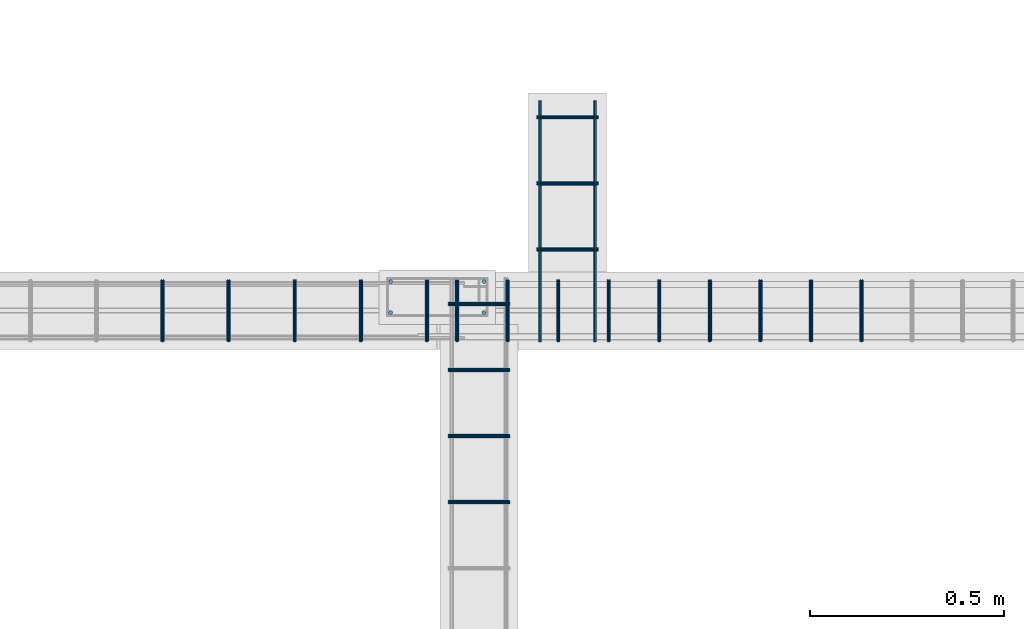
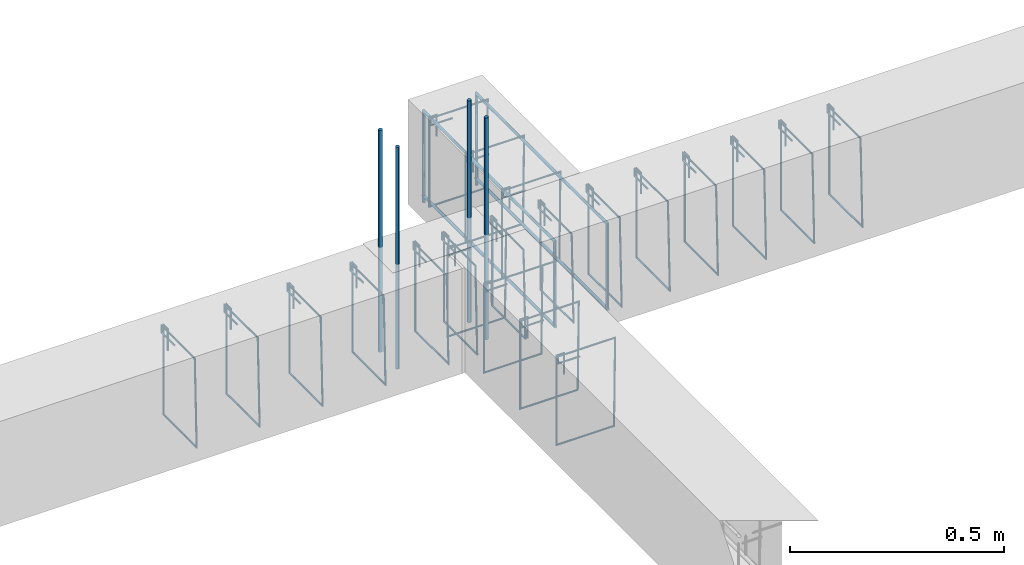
# One storey, part 114 of 150: 29 reinforcing bars.
"""IFC4 building model written with IfcOpenShell, lengths in centimetres."""

from ifc_helpers import new_model, entity, si_unit, derived_unit, frame, origin_with_axes, place, context, project, spatial, source, transform, mapped, element, save


model = new_model("IFC4")

# Units and contexts
model_context = context("Model", 3, precision=1e-05, world=origin_with_axes(), identifier="Body")
ifc_project = project(units=[si_unit("LENGTHUNIT", "METRE", prefix="CENTI"), si_unit("VOLUMEUNIT", "CUBIC_METRE"), si_unit("AREAUNIT", "SQUARE_METRE"), si_unit("POWERUNIT", "WATT"), si_unit("LUMINOUSFLUXUNIT", "LUMEN"), si_unit("ELECTRICCURRENTUNIT", "AMPERE"), si_unit("PRESSUREUNIT", "PASCAL", prefix="KILO"), si_unit("MASSUNIT", "GRAM", prefix="KILO"), si_unit("PLANEANGLEUNIT", "RADIAN"), derived_unit("VOLUMETRICFLOWRATEUNIT", [(si_unit("LENGTHUNIT", "METRE"), 3), (si_unit("TIMEUNIT", "SECOND"), -1)])], contexts=[model_context])

# Site, building, storey
site_placement = place(None, frame((-4000.0, 0.0, 0.0), z_axis=(0.0, 0.0, 1.0), x_axis=(1.0, 0.0, 0.0)))
site = spatial("IfcSite", under=ifc_project, at=site_placement, Name="PADRÃO")
building_placement = place(site_placement, frame((0.0, 0.0, -14.0)))
building = spatial("IfcBuilding", under=site, at=building_placement, Name="CRECHE PRÉ-ESCOLA TIPO 2")
placement = place(building_placement, origin_with_axes())
storey_placement = place(placement, frame((0.0, 0.0, 30.0), z_axis=(0.0, 0.0, 1.0), x_axis=(1.0, 0.0, 0.0)))
storey = spatial("IfcBuildingStorey", under=building, at=storey_placement, Name="VIGA BALDRAME", CompositionType="ELEMENT", Elevation=16.0)

# Reinforcing bars
shared_shape_1 = source(origin_with_axes(), model_context, "Body", "AdvancedSweptSolid", [
    entity("IfcSweptDiskSolid", entity("IfcCompositeCurve", [entity("IfcCompositeCurveSegment", "CONTINUOUS", True, entity("IfcPolyline", [entity("IfcCartesianPoint", [2.0, -6.0, 0.0]), entity("IfcCartesianPoint", [2.0, 0.0, 0.0])])), entity("IfcCompositeCurveSegment", "CONTINUOUS", True, entity("IfcPolyline", [entity("IfcCartesianPoint", [2.0, 0.0, 0.0]), entity("IfcCartesianPoint", [0.0, 0.0, 0.0])])), entity("IfcCompositeCurveSegment", "CONTINUOUS", True, entity("IfcPolyline", [entity("IfcCartesianPoint", [0.0, 0.0, 0.0]), entity("IfcCartesianPoint", [0.0, -25.5, 0.0])])), entity("IfcCompositeCurveSegment", "CONTINUOUS", True, entity("IfcPolyline", [entity("IfcCartesianPoint", [0.0, -25.5, 0.0]), entity("IfcCartesianPoint", [15.5, -25.5, 0.0])])), entity("IfcCompositeCurveSegment", "CONTINUOUS", True, entity("IfcPolyline", [entity("IfcCartesianPoint", [15.5, -25.5, 0.0]), entity("IfcCartesianPoint", [15.5, 0.0, 0.5])])), entity("IfcCompositeCurveSegment", "CONTINUOUS", True, entity("IfcPolyline", [entity("IfcCartesianPoint", [15.5, 0.0, 0.5]), entity("IfcCartesianPoint", [0.0, 0.0, 0.5])])), entity("IfcCompositeCurveSegment", "CONTINUOUS", True, entity("IfcPolyline", [entity("IfcCartesianPoint", [0.0, 0.0, 0.5]), entity("IfcCartesianPoint", [0.0, -2.0, 0.5])])), entity("IfcCompositeCurveSegment", "CONTINUOUS", True, entity("IfcPolyline", [entity("IfcCartesianPoint", [0.0, -2.0, 0.5]), entity("IfcCartesianPoint", [6.0, -2.0, 0.5])]))], False), 0.25),
])
for number, where, z_axis, x_axis, name in (
    (1, (710.75, 3519.0, -2.25), (0.0, -1.0, 0.0), (1.0, 0.0, 0.0), "V177 - Estribo"),
    (2, (710.75, 3502.0, -2.25), (0.0, -1.0, 0.0), (1.0, 0.0, 0.0), "V177 - Estribo"),
    (3, (710.75, 3485.0, -2.25), (0.0, -1.0, 0.0), (1.0, 0.0, 0.0), "V177 - Estribo"),
):
    element("IfcReinforcingBar", number, at=place(storey_placement, frame(where, z_axis=z_axis, x_axis=x_axis)), inside=storey, Name=name, BarLength=0.0, CrossSectionArea=1.9634954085e-05, NominalDiameter=0.5, PredefinedType="MAIN", context=model_context, shape_type="MappedRepresentation", body=[
        mapped(shared_shape_1, transform((0.0, 0.0, 0.0), scale=1.0)),
    ])
shared_shape_2 = source(origin_with_axes(), model_context, "Body", "AdvancedSweptSolid", [
    entity("IfcSweptDiskSolid", entity("IfcCompositeCurve", [entity("IfcCompositeCurveSegment", "CONTINUOUS", True, entity("IfcPolyline", [entity("IfcCartesianPoint", [2.0, -6.0, 0.0]), entity("IfcCartesianPoint", [2.0, 0.0, 0.0])])), entity("IfcCompositeCurveSegment", "CONTINUOUS", True, entity("IfcPolyline", [entity("IfcCartesianPoint", [2.0, 0.0, 0.0]), entity("IfcCartesianPoint", [0.0, 0.0, 0.0])])), entity("IfcCompositeCurveSegment", "CONTINUOUS", True, entity("IfcPolyline", [entity("IfcCartesianPoint", [0.0, 0.0, 0.0]), entity("IfcCartesianPoint", [0.0, -25.5, 0.0])])), entity("IfcCompositeCurveSegment", "CONTINUOUS", True, entity("IfcPolyline", [entity("IfcCartesianPoint", [0.0, -25.5, 0.0]), entity("IfcCartesianPoint", [15.5, -25.5, 0.0])])), entity("IfcCompositeCurveSegment", "CONTINUOUS", True, entity("IfcPolyline", [entity("IfcCartesianPoint", [15.5, -25.5, 0.0]), entity("IfcCartesianPoint", [15.5, 0.0, 0.5])])), entity("IfcCompositeCurveSegment", "CONTINUOUS", True, entity("IfcPolyline", [entity("IfcCartesianPoint", [15.5, 0.0, 0.5]), entity("IfcCartesianPoint", [0.0, 0.0, 0.5])])), entity("IfcCompositeCurveSegment", "CONTINUOUS", True, entity("IfcPolyline", [entity("IfcCartesianPoint", [0.0, 0.0, 0.5]), entity("IfcCartesianPoint", [0.0, -2.0, 0.5])])), entity("IfcCompositeCurveSegment", "CONTINUOUS", True, entity("IfcPolyline", [entity("IfcCartesianPoint", [0.0, -2.0, 0.5]), entity("IfcCartesianPoint", [6.0, -2.0, 0.5])]))], False), 0.25),
])
for number, where, z_axis, x_axis, name in (
    (4, (687.98, 3470.99, -2.25), (0.0, -1.0, 0.0), (1.0, 0.0, 0.0), "V176 - Estribo"),
    (5, (687.98, 3453.99, -2.25), (0.0, -1.0, 0.0), (1.0, 0.0, 0.0), "V176 - Estribo"),
    (6, (687.98, 3436.99, -2.25), (0.0, -1.0, 0.0), (1.0, 0.0, 0.0), "V176 - Estribo"),
    (7, (687.98, 3419.99, -2.25), (0.0, -1.0, 0.0), (1.0, 0.0, 0.0), "V176 - Estribo"),
):
    element("IfcReinforcingBar", number, at=place(storey_placement, frame(where, z_axis=z_axis, x_axis=x_axis)), inside=storey, Name=name, BarLength=0.0, CrossSectionArea=1.9634954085e-05, NominalDiameter=0.5, PredefinedType="MAIN", context=model_context, shape_type="MappedRepresentation", body=[
        mapped(shared_shape_2, transform((0.0, 0.0, 0.0), scale=1.0)),
    ])
shared_shape_3 = source(origin_with_axes(), model_context, "Body", "AdvancedSweptSolid", [
    entity("IfcSweptDiskSolid", entity("IfcCompositeCurve", [entity("IfcCompositeCurveSegment", "CONTINUOUS", True, entity("IfcPolyline", [entity("IfcCartesianPoint", [2.0, -6.0, 0.0]), entity("IfcCartesianPoint", [2.0, 0.0, 0.0])])), entity("IfcCompositeCurveSegment", "CONTINUOUS", True, entity("IfcPolyline", [entity("IfcCartesianPoint", [2.0, 0.0, 0.0]), entity("IfcCartesianPoint", [0.0, 0.0, 0.0])])), entity("IfcCompositeCurveSegment", "CONTINUOUS", True, entity("IfcPolyline", [entity("IfcCartesianPoint", [0.0, 0.0, 0.0]), entity("IfcCartesianPoint", [0.0, -25.5, 0.0])])), entity("IfcCompositeCurveSegment", "CONTINUOUS", True, entity("IfcPolyline", [entity("IfcCartesianPoint", [0.0, -25.5, 0.0]), entity("IfcCartesianPoint", [15.5, -25.5, 0.0])])), entity("IfcCompositeCurveSegment", "CONTINUOUS", True, entity("IfcPolyline", [entity("IfcCartesianPoint", [15.5, -25.5, 0.0]), entity("IfcCartesianPoint", [15.5, 0.0, 0.5])])), entity("IfcCompositeCurveSegment", "CONTINUOUS", True, entity("IfcPolyline", [entity("IfcCartesianPoint", [15.5, 0.0, 0.5]), entity("IfcCartesianPoint", [0.0, 0.0, 0.5])])), entity("IfcCompositeCurveSegment", "CONTINUOUS", True, entity("IfcPolyline", [entity("IfcCartesianPoint", [0.0, 0.0, 0.5]), entity("IfcCartesianPoint", [0.0, -2.0, 0.5])])), entity("IfcCompositeCurveSegment", "CONTINUOUS", True, entity("IfcPolyline", [entity("IfcCartesianPoint", [0.0, -2.0, 0.5]), entity("IfcCartesianPoint", [6.0, -2.0, 0.5])]))], False), 0.25),
])
for number, where, z_axis, x_axis, name in (
    (8, (682.595, 3476.75, -2.25), (-1.0, 0.0, 0.0), (0.0, -1.0, 0.0), "V110 - Estribo"),
    (9, (648.595, 3476.75, -2.25), (-1.0, 0.0, 0.0), (0.0, -1.0, 0.0), "V110 - Estribo"),
    (10, (631.595, 3476.75, -2.25), (-1.0, 0.0, 0.0), (0.0, -1.0, 0.0), "V110 - Estribo"),
    (11, (614.595, 3476.75, -2.25), (-1.0, 0.0, 0.0), (0.0, -1.0, 0.0), "V110 - Estribo"),
    (12, (665.595, 3476.75, -2.25), (-1.0, 0.0, 0.0), (0.0, -1.0, 0.0), "V110 - Estribo"),
):
    element("IfcReinforcingBar", number, at=place(storey_placement, frame(where, z_axis=z_axis, x_axis=x_axis)), inside=storey, Name=name, BarLength=0.0, CrossSectionArea=1.9634954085e-05, NominalDiameter=0.5, PredefinedType="MAIN", context=model_context, shape_type="MappedRepresentation", body=[
        mapped(shared_shape_3, transform((0.0, 0.0, 0.0), scale=1.0)),
    ])
shared_shape_4 = source(origin_with_axes(), model_context, "Body", "AdvancedSweptSolid", [
    entity("IfcSweptDiskSolid", entity("IfcCompositeCurve", [entity("IfcCompositeCurveSegment", "CONTINUOUS", True, entity("IfcPolyline", [entity("IfcCartesianPoint", [2.0, -6.0, 0.0]), entity("IfcCartesianPoint", [2.0, 0.0, 0.0])])), entity("IfcCompositeCurveSegment", "CONTINUOUS", True, entity("IfcPolyline", [entity("IfcCartesianPoint", [2.0, 0.0, 0.0]), entity("IfcCartesianPoint", [0.0, 0.0, 0.0])])), entity("IfcCompositeCurveSegment", "CONTINUOUS", True, entity("IfcPolyline", [entity("IfcCartesianPoint", [0.0, 0.0, 0.0]), entity("IfcCartesianPoint", [0.0, -25.5, 0.0])])), entity("IfcCompositeCurveSegment", "CONTINUOUS", True, entity("IfcPolyline", [entity("IfcCartesianPoint", [0.0, -25.5, 0.0]), entity("IfcCartesianPoint", [15.5, -25.5, 0.0])])), entity("IfcCompositeCurveSegment", "CONTINUOUS", True, entity("IfcPolyline", [entity("IfcCartesianPoint", [15.5, -25.5, 0.0]), entity("IfcCartesianPoint", [15.5, 0.0, 0.5])])), entity("IfcCompositeCurveSegment", "CONTINUOUS", True, entity("IfcPolyline", [entity("IfcCartesianPoint", [15.5, 0.0, 0.5]), entity("IfcCartesianPoint", [0.0, 0.0, 0.5])])), entity("IfcCompositeCurveSegment", "CONTINUOUS", True, entity("IfcPolyline", [entity("IfcCartesianPoint", [0.0, 0.0, 0.5]), entity("IfcCartesianPoint", [0.0, -2.0, 0.5])])), entity("IfcCompositeCurveSegment", "CONTINUOUS", True, entity("IfcPolyline", [entity("IfcCartesianPoint", [0.0, -2.0, 0.5]), entity("IfcCartesianPoint", [6.0, -2.0, 0.5])]))], False), 0.25),
])
for number, where, z_axis, x_axis, name in (
    (13, (794.36, 3476.75, -2.25), (-1.0, 0.0, 0.0), (0.0, -1.0, 0.0), "V110 - Estribo"),
    (14, (781.36, 3476.75, -2.25), (-1.0, 0.0, 0.0), (0.0, -1.0, 0.0), "V110 - Estribo"),
    (15, (768.36, 3476.75, -2.25), (-1.0, 0.0, 0.0), (0.0, -1.0, 0.0), "V110 - Estribo"),
    (16, (755.36, 3476.75, -2.25), (-1.0, 0.0, 0.0), (0.0, -1.0, 0.0), "V110 - Estribo"),
    (17, (742.36, 3476.75, -2.25), (-1.0, 0.0, 0.0), (0.0, -1.0, 0.0), "V110 - Estribo"),
    (18, (729.36, 3476.75, -2.25), (-1.0, 0.0, 0.0), (0.0, -1.0, 0.0), "V110 - Estribo"),
    (19, (716.36, 3476.75, -2.25), (-1.0, 0.0, 0.0), (0.0, -1.0, 0.0), "V110 - Estribo"),
    (20, (703.36, 3476.75, -2.25), (-1.0, 0.0, 0.0), (0.0, -1.0, 0.0), "V110 - Estribo"),
    (21, (690.36, 3476.75, -2.25), (-1.0, 0.0, 0.0), (0.0, -1.0, 0.0), "V110 - Estribo"),
):
    element("IfcReinforcingBar", number, at=place(storey_placement, frame(where, z_axis=z_axis, x_axis=x_axis)), inside=storey, Name=name, BarLength=0.0, CrossSectionArea=1.9634954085e-05, NominalDiameter=0.5, PredefinedType="MAIN", context=model_context, shape_type="MappedRepresentation", body=[
        mapped(shared_shape_4, transform((0.0, 0.0, 0.0), scale=1.0)),
    ])
for number, where, z_axis, x_axis, name in (
    (22, (697.0, 3476.49, 33.3573001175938), (0.0, 0.0, 1.0), (1.0, 0.0, 0.0), "P39 - Longitudinal"),
    (23, (697.0, 3468.49, 33.3573001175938), (0.0, 0.0, 1.0), (1.0, 0.0, 0.0), "P39 - Longitudinal"),
    (24, (673.0, 3468.49, 33.3573001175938), (0.0, 0.0, 1.0), (1.0, 0.0, 0.0), "P39 - Longitudinal"),
    (25, (673.0, 3476.49, 33.3573001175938), (0.0, 0.0, 1.0), (1.0, 0.0, 0.0), "P39 - Longitudinal"),
):
    element("IfcReinforcingBar", number, at=place(storey_placement, frame(where, z_axis=z_axis, x_axis=x_axis)), inside=storey, Name=name, BarLength=0.0, CrossSectionArea=7.853981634e-05, NominalDiameter=1.0, PredefinedType="MAIN", context=model_context, shape_type="AdvancedSweptSolid", body=[
        entity("IfcSweptDiskSolid", entity("IfcCompositeCurve", [entity("IfcCompositeCurveSegment", "CONTINUOUS", True, entity("IfcPolyline", [entity("IfcCartesianPoint", [0.0, 0.0, -63.3573001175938]), entity("IfcCartesianPoint", [0.0, 0.0, 0.0])]))], False), 0.5),
    ])
for number, where, z_axis, x_axis, name in (
    (26, (711.4, 3492.0, -26.7), (0.0, 0.0, 1.0), (1.0, 0.0, 0.0), "V177 - Longitudinal inferior"),
    (27, (725.6, 3492.0, -26.7), (0.0, 0.0, 1.0), (1.0, 0.0, 0.0), "V177 - Longitudinal inferior"),
):
    element("IfcReinforcingBar", number, at=place(storey_placement, frame(where, z_axis=z_axis, x_axis=x_axis)), inside=storey, Name=name, BarLength=0.0, CrossSectionArea=5.0265482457e-05, NominalDiameter=0.8, PredefinedType="MAIN", context=model_context, shape_type="AdvancedSweptSolid", body=[
        entity("IfcSweptDiskSolid", entity("IfcCompositeCurve", [entity("IfcCompositeCurveSegment", "CONTINUOUS", True, entity("IfcPolyline", [entity("IfcCartesianPoint", [0.0, -31.0, -0.4]), entity("IfcCartesianPoint", [0.0, 31.0, -0.4])]))], False), 0.4),
    ])
for number, where, z_axis, x_axis, name in (
    (28, (711.4, 3492.0, -2.49624973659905), (0.0, 0.0, 1.0), (1.0, 0.0, 0.0), "V177 - Longitudinal superior"),
    (29, (725.6, 3492.0, -2.49624973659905), (0.0, 0.0, 1.0), (1.0, 0.0, 0.0), "V177 - Longitudinal superior"),
):
    element("IfcReinforcingBar", number, at=place(storey_placement, frame(where, z_axis=z_axis, x_axis=x_axis)), inside=storey, Name=name, BarLength=0.0, CrossSectionArea=5.0265482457e-05, NominalDiameter=0.8, PredefinedType="MAIN", context=model_context, shape_type="AdvancedSweptSolid", body=[
        entity("IfcSweptDiskSolid", entity("IfcCompositeCurve", [entity("IfcCompositeCurveSegment", "CONTINUOUS", True, entity("IfcPolyline", [entity("IfcCartesianPoint", [0.0, -30.6, -24.2941566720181]), entity("IfcCartesianPoint", [0.0, -30.6, -0.403750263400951])])), entity("IfcCompositeCurveSegment", "CONTINUOUS", True, entity("IfcPolyline", [entity("IfcCartesianPoint", [0.0, -30.6, -0.403750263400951]), entity("IfcCartesianPoint", [0.0, 30.6, -0.403750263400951])])), entity("IfcCompositeCurveSegment", "CONTINUOUS", True, entity("IfcPolyline", [entity("IfcCartesianPoint", [0.0, 30.6, -0.403750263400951]), entity("IfcCartesianPoint", [0.0, 30.6, -26.403750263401])]))], False), 0.4),
    ])

save(model, "model.ifc")
